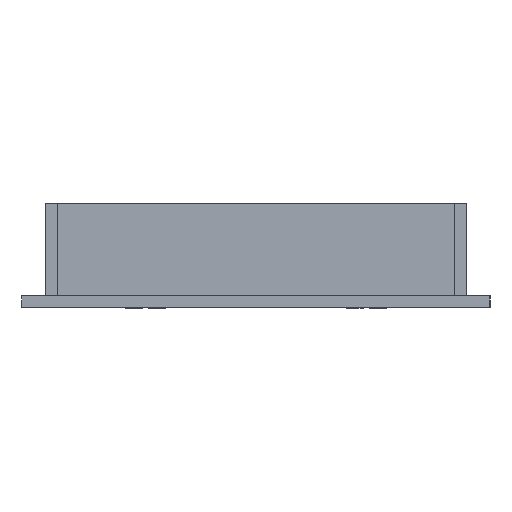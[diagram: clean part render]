
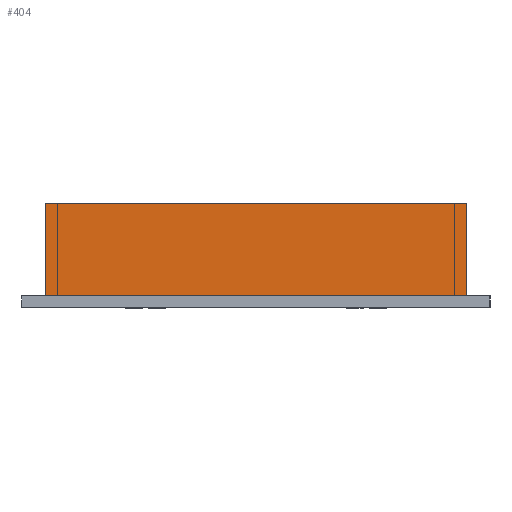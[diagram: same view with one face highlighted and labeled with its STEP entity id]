
A CAD part, left-side view. The second image highlights one B-rep face of the part: STEP entity #404.
In plain terms, the highlighted planar face has unit normal (-1, 0, 0).
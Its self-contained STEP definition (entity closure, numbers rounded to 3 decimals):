
#404=ADVANCED_FACE('',(#740),#5192,.T.);
#740=FACE_OUTER_BOUND('',#1158,.T.);
#1158=EDGE_LOOP('',(#2421,#2422,#2423,#2424));
#2421=ORIENTED_EDGE('',*,*,#3488,.T.);
#2422=ORIENTED_EDGE('',*,*,#3477,.T.);
#2423=ORIENTED_EDGE('',*,*,#3478,.F.);
#2424=ORIENTED_EDGE('',*,*,#3479,.F.);
#3477=EDGE_CURVE('',#4954,#4947,#3953,.T.);
#3478=EDGE_CURVE('',#4948,#4947,#3954,.T.);
#3479=EDGE_CURVE('',#4953,#4948,#3955,.T.);
#3488=EDGE_CURVE('',#4953,#4954,#3964,.T.);
#3953=B_SPLINE_CURVE_WITH_KNOTS('',1,(#13326,#13327),.UNSPECIFIED.,.F.,
 .F.,(2,2),(0.,25.),.UNSPECIFIED.);
#3954=B_SPLINE_CURVE_WITH_KNOTS('',1,(#13328,#13329),.UNSPECIFIED.,.F.,
 .F.,(2,2),(-3248.564,-3134.564),.UNSPECIFIED.);
#3955=B_SPLINE_CURVE_WITH_KNOTS('',1,(#13330,#13331),.UNSPECIFIED.,.F.,
 .F.,(2,2),(0.,25.),.UNSPECIFIED.);
#3964=B_SPLINE_CURVE_WITH_KNOTS('',1,(#13348,#13349),.UNSPECIFIED.,.F.,
 .F.,(2,2),(-3248.564,-3134.564),.UNSPECIFIED.);
#4947=VERTEX_POINT('',#13252);
#4948=VERTEX_POINT('',#13253);
#4953=VERTEX_POINT('',#13258);
#4954=VERTEX_POINT('',#13259);
#5192=PLANE('',#5714);
#5714=AXIS2_PLACEMENT_3D('',#12428,#5979,$);
#5979=DIRECTION('',(-1.,0.,0.));
#12428=CARTESIAN_POINT('',(6.5,-6.5,3.));
#13252=CARTESIAN_POINT('',(6.5,-120.5,28.));
#13253=CARTESIAN_POINT('',(6.5,-6.5,28.));
#13258=CARTESIAN_POINT('',(6.5,-6.5,3.));
#13259=CARTESIAN_POINT('',(6.5,-120.5,3.));
#13326=CARTESIAN_POINT('',(6.5,-120.5,3.));
#13327=CARTESIAN_POINT('',(6.5,-120.5,28.));
#13328=CARTESIAN_POINT('',(6.5,-6.5,28.));
#13329=CARTESIAN_POINT('',(6.5,-120.5,28.));
#13330=CARTESIAN_POINT('',(6.5,-6.5,3.));
#13331=CARTESIAN_POINT('',(6.5,-6.5,28.));
#13348=CARTESIAN_POINT('',(6.5,-6.5,3.));
#13349=CARTESIAN_POINT('',(6.5,-120.5,3.));
